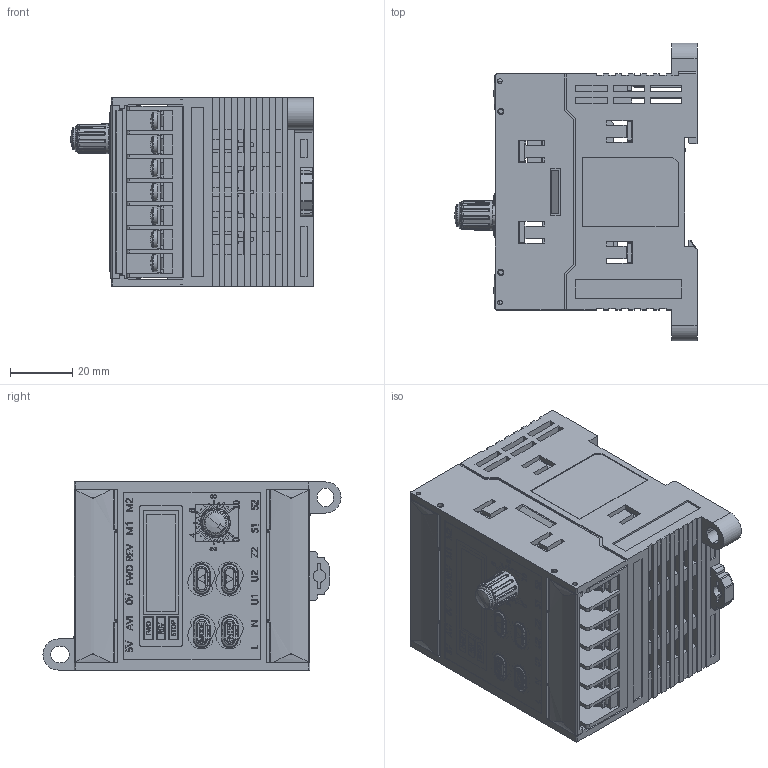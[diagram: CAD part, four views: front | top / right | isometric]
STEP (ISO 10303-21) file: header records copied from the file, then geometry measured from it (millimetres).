
FILE_DESCRIPTION (( 'STEP AP214' ), '1' );
FILE_NAME ('ZDRV.A22-200S2-DB囀离倰蝠霜覃厒ん.STEP', '2021-05-15T02:59:47', ( '' ), ( '' ), 'SwSTEP 2.0', 'SolidWorks 2019', '' );
FILE_SCHEMA (( 'AUTOMOTIVE_DESIGN' ));
Length unit declared in the file: millimetre
Products named in the file (8): 縐諶; ZDRV.A22-200S2-DB内置型交流调速器#本体; 楹裔; ZDRV.A22-200S2-DB囀离倰蝠霜覃厒ん
Assembly tree (4 placements, depth 2):
  縐諶
  ZDRV.A22-200S2-DB内置型交流调速器#本体
  楹裔
  楹裔
  ZDRV.A22-200S2-DB囀离倰蝠霜覃厒ん
    ZDRV.A22-200S2-DB内置型交流调速器#本体
    縐諶
    楹裔  x2
Bounding box: 78 x 95.8 x 60.5 mm (x, y, z)
Volume: 83771.1 mm3; surface area: 102300.6 mm2
Topology: 23 solids, 40 shells, 6174 faces, 17641 edges, 11622 vertices
Faces by surface type: plane 3884, cylinder 1177, bspline 505, torus 402, cone 163, sphere 43
Entity records: 229493 total; most frequent: CARTESIAN_POINT 75720, ORIENTED_EDGE 34632, DIRECTION 27989, EDGE_CURVE 17316, VERTEX_POINT 11437, VECTOR 11063, LINE 11063, AXIS2_PLACEMENT_3D 8463
